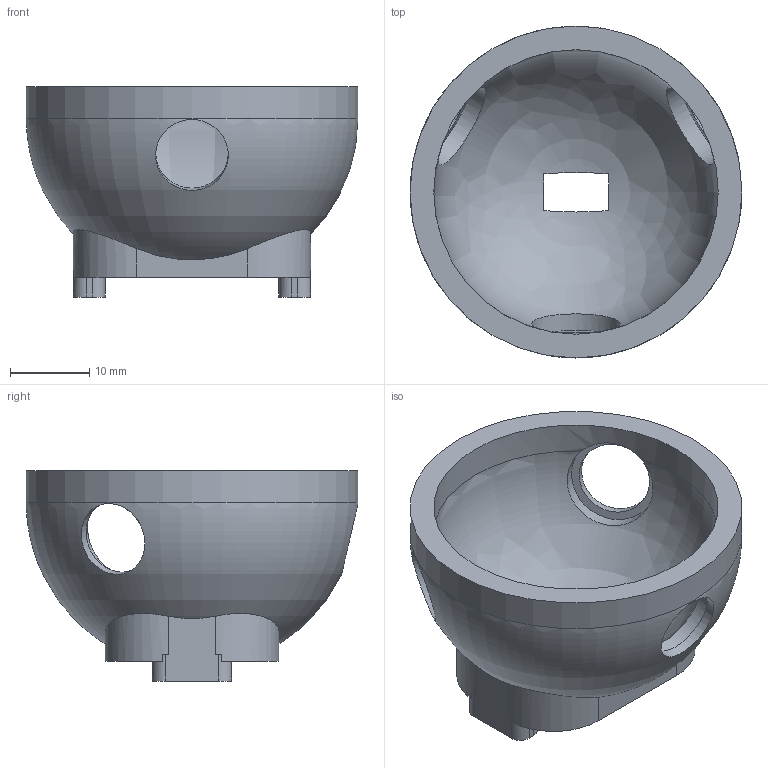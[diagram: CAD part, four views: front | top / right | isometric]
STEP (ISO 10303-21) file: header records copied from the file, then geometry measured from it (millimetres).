
FILE_DESCRIPTION(('Open CASCADE Model'),'2;1');
FILE_NAME('Open CASCADE Shape Model','2026-05-31T19:42:50',('Author'),( 'Open CASCADE'),'Open CASCADE STEP processor 7.6','Open CASCADE 7.6' ,'Unknown');
FILE_SCHEMA(('AP242_MANAGED_MODEL_BASED_3D_ENGINEERING_MIM_LF. {1 0 10303 442 1 1 4 }'));
Length unit declared in the file: millimetre
Products named in the file (1): Open CASCADE STEP translator 7.6 8
Bounding box: 42 x 42 x 26.6 mm (x, y, z)
Volume: 8629.6 mm3; surface area: 6636.3 mm2
Topology: 1 solids, 1 shells, 71 faces, 203 edges, 134 vertices
Faces by surface type: plane 35, cylinder 28, bspline 4, revolution 2, cone 2
Full cylindrical faces by diameter (mm): 2.05 x2, 9.2 x3, 11.2 x3, 36 x1, 42 x1
Entity records: 8385 total; most frequent: CARTESIAN_POINT 4447, DIRECTION 714, ORIENTED_EDGE 402, PCURVE 402, DEFINITIONAL_REPRESENTATION 402, LINE 388, VECTOR 388, EDGE_CURVE 201
